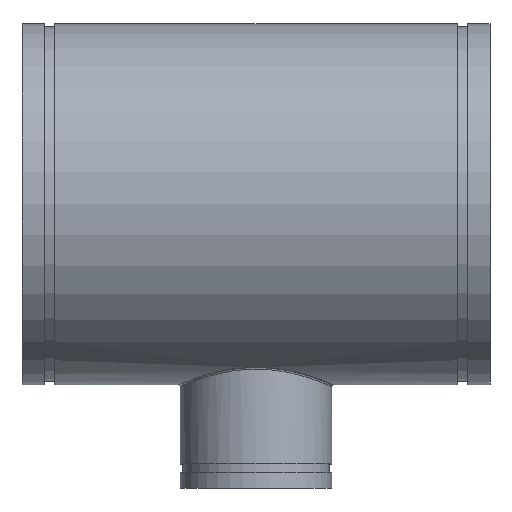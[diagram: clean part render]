
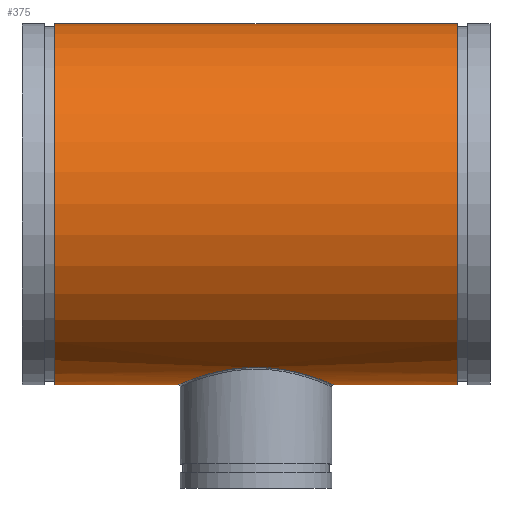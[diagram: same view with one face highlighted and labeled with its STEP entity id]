
A CAD part, top view. The second image highlights one B-rep face of the part: STEP entity #375.
In plain terms, the highlighted cylindrical face has radius 274.32 mm (diameter 548.64 mm), a full revolution.
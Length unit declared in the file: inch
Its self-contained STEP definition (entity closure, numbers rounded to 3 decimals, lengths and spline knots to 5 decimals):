
#54=FACE_BOUND('',#119,.T.);
#65=LINE('',#798,#76);
#76=VECTOR('',#483,10.8);
#87=CYLINDRICAL_SURFACE('',#415,10.8);
#98=FACE_OUTER_BOUND('',#118,.T.);
#118=EDGE_LOOP('',(#266,#267,#268,#269));
#119=EDGE_LOOP('',(#270));
#150=B_SPLINE_CURVE_WITH_KNOTS('',3,(#769,#770,#771,#772,#773,#774,#775,
#776,#777,#778,#779,#780,#781,#782,#783,#784,#785,#786,#787,#788,#789,#790,
#791,#792,#793),.UNSPECIFIED.,.T.,.F.,(4,1,1,1,1,1,1,1,1,1,1,1,1,1,1,1,
1,1,1,1,1,1,4),(-70.22329,-67.71532,-65.20734,-60.19139,
-57.68342,-55.17544,-52.66747,-50.15949,
-46.81553,-43.47156,-40.1276,-36.78363,
-33.43966,-30.0957,-26.75173,-23.40776,
-20.0638,-16.71983,-13.37587,-10.0319,
-5.01595,-2.50797,0.),.UNSPECIFIED.);
#154=CIRCLE('',#416,10.8);
#155=CIRCLE('',#417,10.8);
#182=VERTEX_POINT('',#736);
#185=VERTEX_POINT('',#795);
#186=VERTEX_POINT('',#797);
#219=EDGE_CURVE('',#182,#182,#150,.T.);
#220=EDGE_CURVE('',#185,#185,#154,.T.);
#221=EDGE_CURVE('',#185,#186,#65,.T.);
#222=EDGE_CURVE('',#186,#186,#155,.T.);
#266=ORIENTED_EDGE('',*,*,#220,.T.);
#267=ORIENTED_EDGE('',*,*,#221,.T.);
#268=ORIENTED_EDGE('',*,*,#222,.T.);
#269=ORIENTED_EDGE('',*,*,#221,.F.);
#270=ORIENTED_EDGE('',*,*,#219,.F.);
#375=ADVANCED_FACE('',(#98,#54),#87,.T.);
#415=AXIS2_PLACEMENT_3D('',#794,#479,#480);
#416=AXIS2_PLACEMENT_3D('',#796,#481,#482);
#417=AXIS2_PLACEMENT_3D('',#799,#484,#485);
#479=DIRECTION('center_axis',(-1.,0.,0.));
#480=DIRECTION('ref_axis',(0.,-1.,0.));
#481=DIRECTION('center_axis',(1.,0.,0.));
#482=DIRECTION('ref_axis',(0.,-1.,0.));
#483=DIRECTION('',(1.,0.,0.));
#484=DIRECTION('center_axis',(-1.,0.,0.));
#485=DIRECTION('ref_axis',(0.,-1.,0.));
#736=CARTESIAN_POINT('',(0.,-9.77289,-4.5968));
#769=CARTESIAN_POINT('Ctrl Pts',(0.,-9.77289,
-4.5968));
#770=CARTESIAN_POINT('Ctrl Pts',(0.35212,-9.77289,-4.5968));
#771=CARTESIAN_POINT('Ctrl Pts',(1.05605,-9.81088,-4.51709));
#772=CARTESIAN_POINT('Ctrl Pts',(2.37879,-10.01852,-4.05398));
#773=CARTESIAN_POINT('Ctrl Pts',(3.47447,-10.34656,-3.18659));
#774=CARTESIAN_POINT('Ctrl Pts',(4.21727,-10.62235,-2.02608));
#775=CARTESIAN_POINT('Ctrl Pts',(4.56952,-10.76582,-1.04415));
#776=CARTESIAN_POINT('Ctrl Pts',(4.69025,-10.81709,-0.00007));
#777=CARTESIAN_POINT('Ctrl Pts',(4.55613,-10.76021,1.16043));
#778=CARTESIAN_POINT('Ctrl Pts',(4.07833,-10.56568,2.34711));
#779=CARTESIAN_POINT('Ctrl Pts',(3.20907,-10.26027,3.41859));
#780=CARTESIAN_POINT('Ctrl Pts',(2.06281,-9.95863,4.19592));
#781=CARTESIAN_POINT('Ctrl Pts',(0.71443,-9.76499,4.61409));
#782=CARTESIAN_POINT('Ctrl Pts',(-0.71453,-9.76505,4.61404));
#783=CARTESIAN_POINT('Ctrl Pts',(-2.06289,-9.95859,4.19589));
#784=CARTESIAN_POINT('Ctrl Pts',(-3.20918,-10.26035,3.41855));
#785=CARTESIAN_POINT('Ctrl Pts',(-4.07828,-10.56559,2.34696));
#786=CARTESIAN_POINT('Ctrl Pts',(-4.59971,-10.77808,1.05262));
#787=CARTESIAN_POINT('Ctrl Pts',(-4.70855,-10.82503,-0.35428));
#788=CARTESIAN_POINT('Ctrl Pts',(-4.38686,-10.68881,-1.72205));
#789=CARTESIAN_POINT('Ctrl Pts',(-3.56556,-10.3739,-3.11455));
#790=CARTESIAN_POINT('Ctrl Pts',(-2.37884,-10.01851,-4.05391));
#791=CARTESIAN_POINT('Ctrl Pts',(-1.05603,-9.81089,-4.51712));
#792=CARTESIAN_POINT('Ctrl Pts',(-0.35212,-9.77289,-4.5968));
#793=CARTESIAN_POINT('Ctrl Pts',(0.,-9.77289,
-4.5968));
#794=CARTESIAN_POINT('Origin',(14.,0.,0.));
#795=CARTESIAN_POINT('',(-12.035,10.8,0.));
#796=CARTESIAN_POINT('Origin',(-12.035,0.,0.));
#797=CARTESIAN_POINT('',(12.035,10.8,0.));
#798=CARTESIAN_POINT('',(14.,10.8,0.));
#799=CARTESIAN_POINT('Origin',(12.035,0.,0.));
